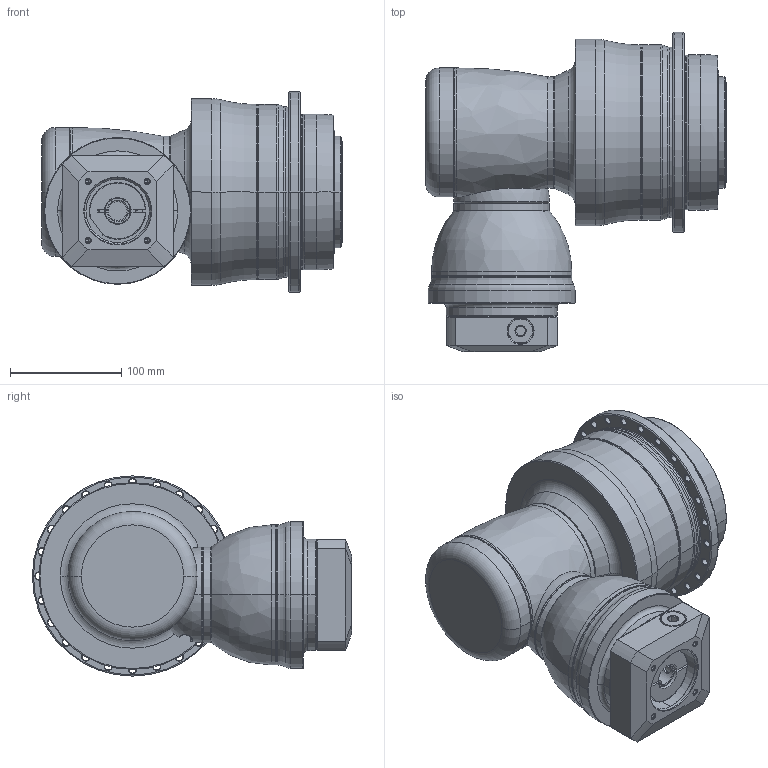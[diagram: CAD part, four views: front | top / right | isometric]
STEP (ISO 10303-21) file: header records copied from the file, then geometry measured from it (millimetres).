
FILE_DESCRIPTION((''),'2;1');
FILE_NAME('APK140_3ST_19-P0409410201_ASM','2018-07-09T',('D00080'),(''),'PRO/ENGINEER BY PARAMETRIC TECHNOLOGY CORPORATION, 2008170','PRO/ENGINEER BY PARAMETRIC TECHNOLOGY CORPORATION, 2008170','');
FILE_SCHEMA(('CONFIG_CONTROL_DESIGN'));
Length unit declared in the file: millimetre
Products named in the file (13): P1008400002; P1832500001; P0278501003; P0359501103; P1211500001; P1315400001; P1007401001; P1318410001; P0503400008; P0129400001; P0409410201; 21711416017; APK140_3ST_19-P0409410201_ASM
Assembly tree (12 placements, depth 2):
  APK140_3ST_19-P0409410201_ASM
    P1008400002
    P1832500001
    P0278501003
    P0359501103
    P1211500001
    P1315400001
    P1007401001
    P1318410001
    P0503400008
    P0129400001
    P0409410201
    21711416017
Bounding box: 270.3 x 287 x 180 mm (x, y, z)
Volume: 4969205 mm3; surface area: 530334.6 mm2
Topology: 13 solids, 38 shells, 788 faces, 1782 edges, 1069 vertices
Faces by surface type: cylinder 317, cone 222, plane 133, torus 84, bspline 30, sphere 2
Entity records: 24629 total; most frequent: CARTESIAN_POINT 6367, DIRECTION 4204, ORIENTED_EDGE 3374, AXIS2_PLACEMENT_3D 1802, EDGE_CURVE 1738, VERTEX_POINT 1069, CIRCLE 1009, EDGE_LOOP 943
